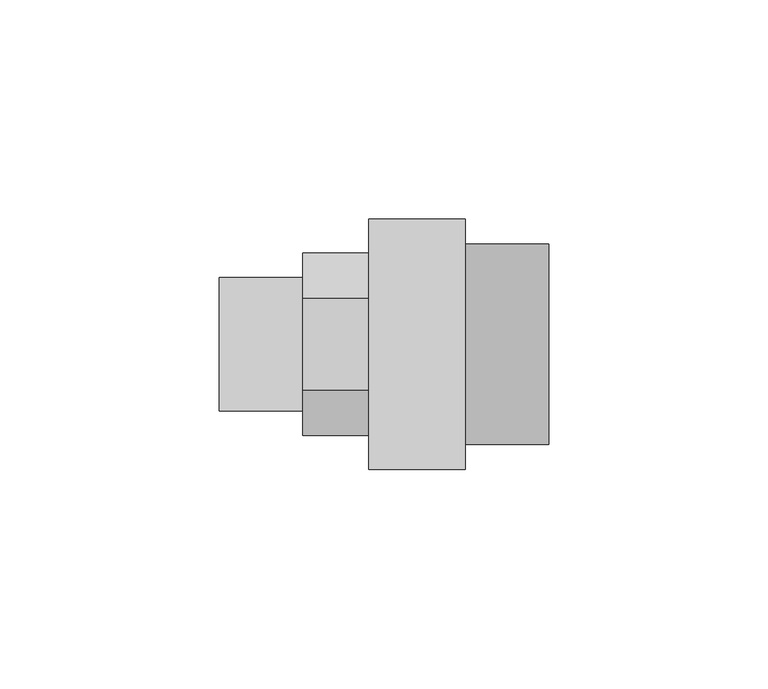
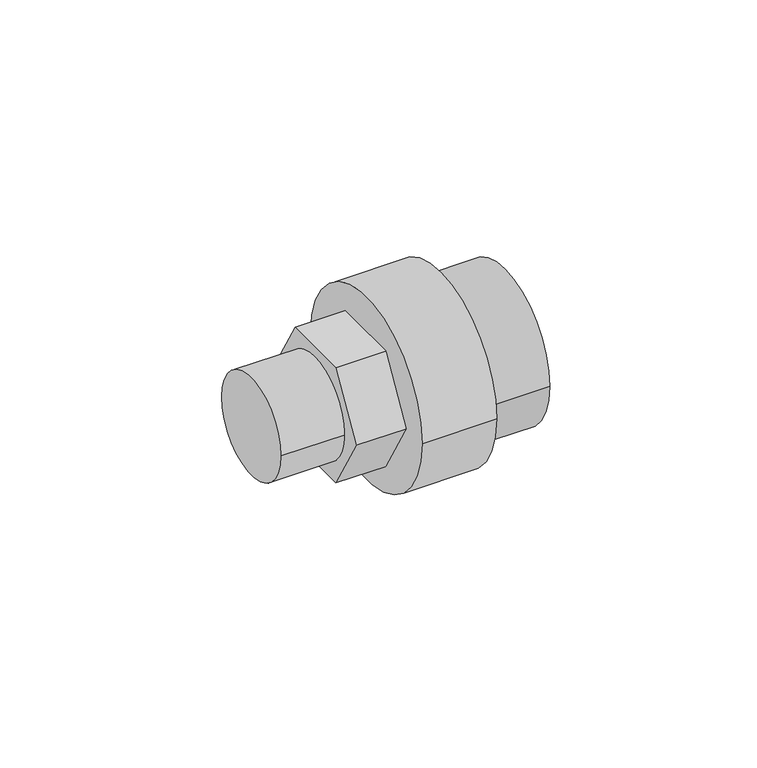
"""IFC4 building model written with IfcOpenShell, lengths in millimetres: pipe fitting geometry, 01011279 : Enlaces 3 piezas para piscinas F/M."""

import ifcopenshell
import ifcopenshell.guid

model = None  # the IFC model being written
_history = None  # IfcOwnerHistory: only IFC2X3 demands one
_inside = {}  # id of a spatial element -> (the spatial element, [elements in it])
_under = {}  # id of a project, library or spatial element -> (it, [spatial elements below it])
_declared = {}  # id of a project -> (the project, [libraries it declares])
_typed = {}  # id of a type object -> (the type object, [elements of that type])
_made_of = {}  # id of a material, layer set ... -> (it, [elements and type objects made of it])


def new_model(schema):
    """Start an empty IFC model of exactly this schema.

    Asked for "IFC4X3", IfcOpenShell would pick the latest addendum, in which some entities
    have other attributes; the version numbers below select the first issue.
    IFC2X3 requires an IfcOwnerHistory on every rooted entity: one is made here for all.
    """
    global model, _history
    if schema == "IFC4X3":
        model = ifcopenshell.file(schema_version=(4, 3, 0, 0))
    else:
        model = ifcopenshell.file(schema=schema)
    _inside.clear()
    _under.clear()
    _declared.clear()
    _typed.clear()
    _made_of.clear()
    _history = None
    if model.schema == "IFC2X3":
        org = make("IfcOrganization", Name="unknown")
        user = make(
            "IfcPersonAndOrganization",
            ThePerson=make("IfcPerson", FamilyName="unknown"),
            TheOrganization=org,
        )
        app = make(
            "IfcApplication",
            ApplicationDeveloper=org,
            Version="unknown",
            ApplicationFullName="unknown",
            ApplicationIdentifier="unknown",
        )
        _history = make(
            "IfcOwnerHistory",
            OwningUser=user,
            OwningApplication=app,
            ChangeAction="ADDED",
            CreationDate=0,
        )
    return model


def make(cls, **values):
    """One entity of the class cls with the attributes given. An attribute that is None is left unset."""
    return model.create_entity(
        cls, **{name: value for name, value in values.items() if value is not None}
    )


def rooted(cls, **values):
    """An entity with a GlobalId (a new one), such as an element, a storey or a relation."""
    return make(cls, GlobalId=ifcopenshell.guid.new(), OwnerHistory=_history, **values)


def si_unit(unit_type, name, prefix=None):
    """IfcSIUnit, for example si_unit("LENGTHUNIT", "METRE", prefix="MILLI")."""
    return make("IfcSIUnit", UnitType=unit_type, Prefix=prefix, Name=name)


def assignment(units):
    """IfcUnitAssignment: the units of a project."""
    return None if units is None else make("IfcUnitAssignment", Units=units)


def point(xyz):
    """IfcCartesianPoint."""
    return None if xyz is None else make("IfcCartesianPoint", Coordinates=xyz)


def direction(xyz):
    """IfcDirection."""
    return None if xyz is None else make("IfcDirection", DirectionRatios=xyz)


def frame(location, z_axis=None, x_axis=None):
    """IfcAxis2Placement3D, a coordinate frame: its origin and axes. An axis left out is left unset."""
    return make(
        "IfcAxis2Placement3D",
        Location=point(location),
        Axis=direction(z_axis),
        RefDirection=direction(x_axis),
    )


def frame_2d(location, x_axis=None):
    """IfcAxis2Placement2D, a coordinate frame in the plane: its origin and x axis."""
    return make(
        "IfcAxis2Placement2D", Location=point(location), RefDirection=direction(x_axis)
    )


def origin():
    """The frame at (0, 0, 0) with its axes left unset."""
    return frame((0.0, 0.0, 0.0))


def origin_2d():
    """The frame at (0, 0) in the plane with its x axis left unset."""
    return frame_2d((0.0, 0.0))


def place(relative_to, where):
    """IfcLocalPlacement: puts the frame where relative to a parent placement (None: the world)."""
    return make(
        "IfcLocalPlacement", PlacementRelTo=relative_to, RelativePlacement=where
    )


def context(
    kind, dimensions, precision=None, world=None, true_north=None, identifier=None
):
    """IfcGeometricRepresentationContext, for example the 3D "Model" context."""
    return make(
        "IfcGeometricRepresentationContext",
        ContextIdentifier=identifier,
        ContextType=kind,
        CoordinateSpaceDimension=dimensions,
        Precision=precision,
        WorldCoordinateSystem=world,
        TrueNorth=true_north,
    )


def project(units=None, contexts=None):
    """IfcProject with its units and contexts."""
    return rooted(
        "IfcProject",
        Name="project",
        RepresentationContexts=contexts,
        UnitsInContext=assignment(units),
    )


def spatial(cls, under=None, at=None, **own):
    """A site, building, storey or space (cls), placed at a placement, below another one or the project."""
    s = rooted(cls, ObjectPlacement=at, **own)
    if under is not None:
        _under.setdefault(under.id(), (under, []))[1].append(s)
    return s


def polyline(points):
    """IfcPolyline through the points."""
    return make("IfcPolyline", Points=[point(p) for p in points])


def circle_curve(where, radius):
    """IfcCircle in the frame where."""
    return make("IfcCircle", Position=where, Radius=radius)


def trimmed(basis, trim1, trim2, sense, master):
    """IfcTrimmedCurve: the piece of a basis curve between two trims."""
    return make(
        "IfcTrimmedCurve",
        BasisCurve=basis,
        Trim1=trim1,
        Trim2=trim2,
        SenseAgreement=sense,
        MasterRepresentation=master,
    )


def segment(curve, same_sense, transition):
    """IfcCompositeCurveSegment."""
    return make(
        "IfcCompositeCurveSegment",
        Transition=transition,
        SameSense=same_sense,
        ParentCurve=curve,
    )


def composite_curve(segments, self_intersect=None):
    """IfcCompositeCurve: segments joined end to end."""
    return make("IfcCompositeCurve", Segments=segments, SelfIntersect=self_intersect)


def outline(outer, holes=None, kind="AREA"):
    """IfcArbitraryClosedProfileDef: a profile drawn as a closed curve; with holes, ...WithVoids."""
    if holes is None:
        return make("IfcArbitraryClosedProfileDef", ProfileType=kind, OuterCurve=outer)
    return make(
        "IfcArbitraryProfileDefWithVoids",
        ProfileType=kind,
        OuterCurve=outer,
        InnerCurves=holes,
    )


def extrude(swept, where, along, depth):
    """IfcExtrudedAreaSolid: the profile swept, set in the frame where, extruded along a direction by depth."""
    return make(
        "IfcExtrudedAreaSolid",
        SweptArea=swept,
        Position=where,
        ExtrudedDirection=direction(along),
        Depth=depth,
    )


def shape(context_of_items, identifier, shape_type, items):
    """IfcShapeRepresentation: the items that make up one representation, for example the "Body"."""
    return make(
        "IfcShapeRepresentation",
        ContextOfItems=context_of_items,
        RepresentationIdentifier=identifier,
        RepresentationType=shape_type,
        Items=items,
    )


def source(mapping_origin, context_of_items, identifier, shape_type, items):
    """IfcRepresentationMap: a shape defined once, which mapped items show again and again."""
    return make(
        "IfcRepresentationMap",
        MappingOrigin=mapping_origin,
        MappedRepresentation=shape(context_of_items, identifier, shape_type, items),
    )


def transform(
    local_origin,
    x_axis=None,
    y_axis=None,
    z_axis=None,
    scale=None,
    scale2=None,
    scale3=None,
    uniform=True,
):
    """IfcCartesianTransformationOperator3D, or its non-uniform kind. x_axis, y_axis, z_axis: its Axis1, 2, 3."""
    if uniform:
        return make(
            "IfcCartesianTransformationOperator3D",
            Axis1=direction(x_axis),
            Axis2=direction(y_axis),
            LocalOrigin=point(local_origin),
            Scale=scale,
            Axis3=direction(z_axis),
        )
    return make(
        "IfcCartesianTransformationOperator3DnonUniform",
        Axis1=direction(x_axis),
        Axis2=direction(y_axis),
        LocalOrigin=point(local_origin),
        Scale=scale,
        Axis3=direction(z_axis),
        Scale2=scale2,
        Scale3=scale3,
    )


def mapped(mapping_source, mapping_target):
    """IfcMappedItem: shows the shape of a source again, moved by a transform."""
    return make(
        "IfcMappedItem", MappingSource=mapping_source, MappingTarget=mapping_target
    )


def made_of(thing, what):
    """Note that an element or type object is made of a material, layer set ...; save() writes the relation."""
    if what is not None:
        _made_of.setdefault(what.id(), (what, []))[1].append(thing)
    return thing


def element(
    cls,
    number,
    at=None,
    inside=None,
    cuts=None,
    type_object=None,
    material=None,
    context=None,
    identifier="Body",
    shape_type=None,
    held_by="IfcProductDefinitionShape",
    body=None,
    shapes=None,
    **own,
):
    """One element of the class cls, such as IfcWall. Its Tag is "e" and its number.

    at: its placement. inside: the storey or other place that contains it. cuts: it is an
    opening in that element (IfcRelVoidsElement). A single representation is given by context,
    identifier, shape_type and body (its items); several are given by shapes. held_by: the class
    of the entity that holds the representations. save() writes the other relations.
    """
    e = rooted(cls, Tag="e%d" % number, ObjectPlacement=at, **own)
    if body is not None:
        shapes = [shape(context, identifier, shape_type, body)]
    if shapes is not None:
        e.Representation = make(held_by, Representations=shapes)
    if inside is not None:
        _inside.setdefault(inside.id(), (inside, []))[1].append(e)
    if cuts is not None:
        rooted(
            "IfcRelVoidsElement", RelatingBuildingElement=cuts, RelatedOpeningElement=e
        )
    if type_object is not None:
        _typed.setdefault(type_object.id(), (type_object, []))[1].append(e)
    return made_of(e, material)


def aggregate(whole, parts):
    """IfcRelAggregates: a whole, such as a stair, and the parts it consists of."""
    return rooted("IfcRelAggregates", RelatingObject=whole, RelatedObjects=parts)


def save(model, path):
    """Write the relations noted so far, then the file.

    IfcRelAggregates (storeys below a building ...), IfcRelContainedInSpatialStructure (elements
    in a storey), IfcRelDefinesByType, IfcRelAssociatesMaterial and IfcRelDeclares: one each for
    every whole, place, type object, material and project.
    """
    for whole, parts in _under.values():
        aggregate(whole, parts)
    for where, things in _inside.values():
        rooted(
            "IfcRelContainedInSpatialStructure",
            RelatedElements=things,
            RelatingStructure=where,
        )
    for kind, things in _typed.values():
        rooted("IfcRelDefinesByType", RelatedObjects=things, RelatingType=kind)
    for what, things in _made_of.values():
        rooted("IfcRelAssociatesMaterial", RelatedObjects=things, RelatingMaterial=what)
    for by, libraries in _declared.values():
        rooted("IfcRelDeclares", RelatingContext=by, RelatedDefinitions=libraries)
    model.write(path)


def pipe_fitting_0626f50b(model_context):
    return source(origin(), model_context, "Body", "SweptSolid", [
        extrude(outline(composite_curve([segment(trimmed(circle_curve(origin_2d(), 28.5), [point((28.5, 0.0))], [point((-28.5, 0.0))], False, "CARTESIAN"), True, "CONTINUOUS"), segment(trimmed(circle_curve(origin_2d(), 28.5), [point((-28.5, 0.0))], [point((28.5, 0.0))], False, "CARTESIAN"), True, "CONTINUOUS")], self_intersect=False)), frame((-15.0, 0.0, 0.0), z_axis=(1.0, 0.0, 0.0), x_axis=(0.0, 1.0, 0.0)), (0.0, 0.0, 1.0), 22.0),
        extrude(outline(polyline([(-10.3923048, 18.0), (10.3923048, 18.0), (20.7846097, 0.0), (10.3923048, -18.0), (-10.3923048, -18.0), (-20.7846097, 0.0), (-10.3923048, 18.0)])), frame((-30.0, 0.0, 0.0), z_axis=(1.0, 0.0, 0.0), x_axis=(0.0, 1.0, 0.0)), (0.0, 0.0, 1.0), 15.0),
        extrude(outline(composite_curve([segment(trimmed(circle_curve(origin_2d(), 15.2), [point((15.2, 0.0))], [point((-15.2, 0.0))], False, "CARTESIAN"), True, "CONTINUOUS"), segment(trimmed(circle_curve(origin_2d(), 15.2), [point((-15.2, 0.0))], [point((15.2, 0.0))], False, "CARTESIAN"), True, "CONTINUOUS")], self_intersect=False)), frame((-49.0, 0.0, 0.0), z_axis=(1.0, 0.0, 0.0), x_axis=(0.0, 1.0, 0.0)), (0.0, 0.0, 1.0), 19.0),
        extrude(outline(composite_curve([segment(trimmed(circle_curve(origin_2d(), 22.8), [point((-22.8, 0.0))], [point((22.8, 0.0))], False, "CARTESIAN"), True, "CONTINUOUS"), segment(trimmed(circle_curve(origin_2d(), 22.8), [point((22.8, 0.0))], [point((-22.8, 0.0))], False, "CARTESIAN"), True, "CONTINUOUS")], self_intersect=False)), frame((7.0, 0.0, 0.0), z_axis=(1.0, 0.0, 0.0), x_axis=(0.0, 1.0, 0.0)), (0.0, 0.0, 1.0), 19.0),
    ])


if __name__ == "__main__":
    model = new_model("IFC4")
    model_context = context("Model", 3, world=origin())
    ifc_project = project(units=[si_unit("LENGTHUNIT", "METRE", prefix="MILLI")], contexts=[model_context])
    site = spatial("IfcSite", under=ifc_project)
    building = spatial("IfcBuilding", under=site)
    placement = place(None, origin())
    pipe_fitting_shape = pipe_fitting_0626f50b(model_context)
    element("IfcPipeFitting", 1, ObjectType="01011279 : Enlaces 3 piezas para piscinas F/M", at=placement, inside=building, context=model_context, shape_type="MappedRepresentation", body=[
        mapped(pipe_fitting_shape, transform((0.0, 0.0, 0.0), x_axis=(1.0, 0.0, 0.0), y_axis=(0.0, 1.0, 0.0), z_axis=(0.0, 0.0, 1.0))),
    ])
    save(model, "model.ifc")
